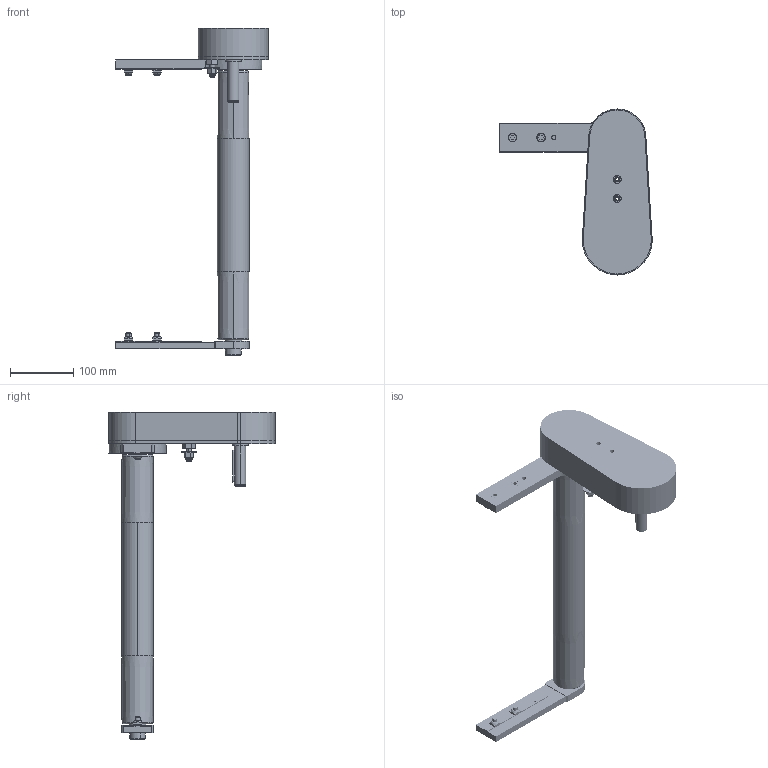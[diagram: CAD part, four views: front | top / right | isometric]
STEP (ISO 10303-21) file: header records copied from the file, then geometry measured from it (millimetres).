
FILE_DESCRIPTION (( 'STEP AP203' ), '1' );
FILE_NAME ('084.050.KTC.44.400.STEP', '2019-07-29T13:20:07', ( '' ), ( '' ), 'SwSTEP 2.0', 'SolidWorks 2018', '' );
FILE_SCHEMA (( 'CONFIG_CONTROL_DESIGN' ));
Length unit declared in the file: millimetre
Products named in the file (24): 084.802.017_084.802.017; 084.301.000 VITI ALUSIC_084.301.003; 084.813.004; 084.810.010; 084.050.KTC.44.400; 084.803.014; RONDELLE FASCIA LARGA UNI 6593_8.4x24 UNI 6593; 084.810.004; 084.302.000 DADI ALUSIC 13x13_084.302.004; 084.815.117_Default<A macchina>; 084.809.001; 084.803.012; 084.807.001_084.807.001; 084.809.003; CUSCINETTI A SFERE_608-2RS; 084.811.004; CHIAVETTE_A 6x6x50 UNI 6604-69; 084.810.001; 084.813.001; 084.807.002_084.807.002; DADI ESAGONALI AUTOBLOCCANTI UNI 7473 INOX_M8 UNI 7473 INOX; Circlip DIN 471 - 8 x 0.8_Circlip DIN 471 - 8 x 0.8; 084.802.034_084.802.034; 084.810.005
Assembly tree (32 placements, depth 3):
  084.050.KTC.44.400
    084.815.117_Default<A macchina>
    084.811.004
    084.813.001
    084.810.001  x2
    084.802.034_084.802.034
    084.802.017_084.802.017
    084.807.001_084.807.001
    084.807.002_084.807.002
    084.803.014  x2
    084.813.004
    084.803.012
    084.809.001
    084.809.003
    084.810.005
      084.810.010
      084.810.004
      CUSCINETTI A SFERE_608-2RS  x2
      Circlip DIN 471 - 8 x 0.8_Circlip DIN 471 - 8 x 0.8
      RONDELLE FASCIA LARGA UNI 6593_8.4x24 UNI 6593
      DADI ESAGONALI AUTOBLOCCANTI UNI 7473 INOX_M8 UNI 7473 INOX
    084.301.000 VITI ALUSIC_084.301.003  x4
    084.302.000 DADI ALUSIC 13x13_084.302.004  x4
    CHIAVETTE_A 6x6x50 UNI 6604-69
Bounding box: 240 x 261.5 x 516 mm (x, y, z)
Volume: 938232.8 mm3; surface area: 554907.5 mm2
Topology: 61 solids, 62 shells, 2851 faces, 6729 edges, 4301 vertices
Faces by surface type: cylinder 1397, plane 719, bspline 468, cone 172, torus 86, sphere 9
Entity records: 81213 total; most frequent: CARTESIAN_POINT 18476, DIRECTION 13639, ORIENTED_EDGE 11856, EDGE_CURVE 5928, AXIS2_PLACEMENT_3D 5757, VERTEX_POINT 3778, CIRCLE 3640, EDGE_LOOP 3100
